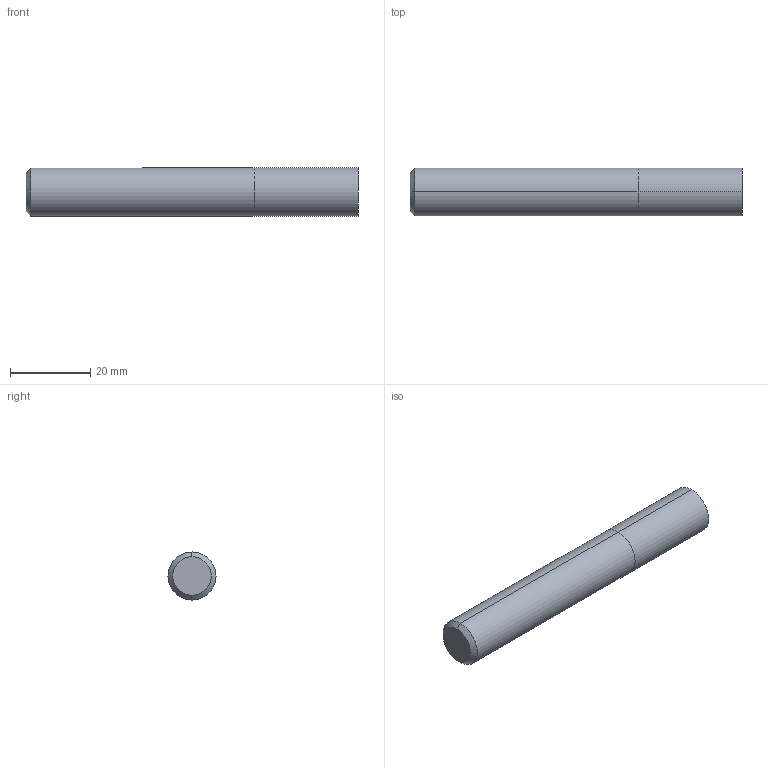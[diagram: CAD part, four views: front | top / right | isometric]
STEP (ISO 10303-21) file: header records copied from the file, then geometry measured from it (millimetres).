
FILE_DESCRIPTION (( 'STEP AP214' ), '1' );
FILE_NAME ('EH831120.STEP', '2018-06-30T07:43:57', ( '' ), ( '' ), 'SwSTEP 2.0', 'SolidWorks 2014', '' );
FILE_SCHEMA (( 'AUTOMOTIVE_DESIGN' ));
Length unit declared in the file: millimetre
Products named in the file (1): EH831120
Bounding box: 83 x 12 x 12 mm (x, y, z)
Volume: 9361.7 mm3; surface area: 3553 mm2
Topology: 2 solids, 2 shells, 10 faces, 16 edges, 10 vertices
Faces by surface type: cylinder 4, plane 4, cone 2
Entity records: 321 total; most frequent: DIRECTION 48, CARTESIAN_POINT 37, ORIENTED_EDGE 32, AXIS2_PLACEMENT_3D 21, EDGE_CURVE 16, EDGE_LOOP 10, VERTEX_POINT 10, FACE_OUTER_BOUND 10
